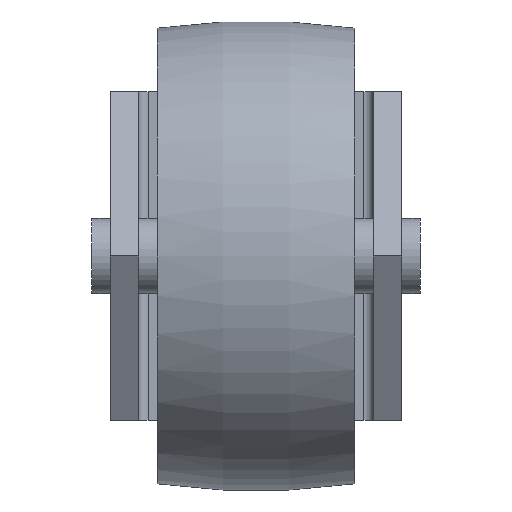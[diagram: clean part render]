
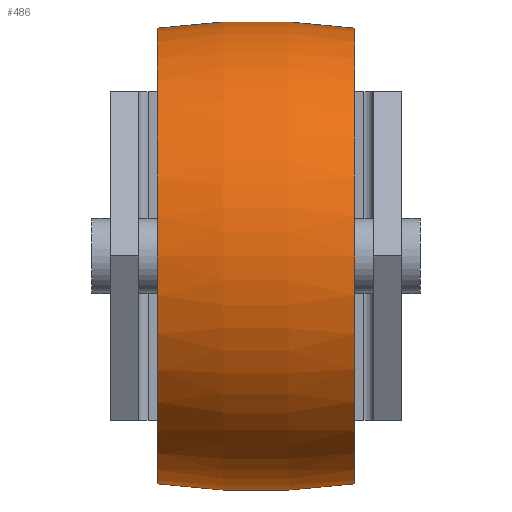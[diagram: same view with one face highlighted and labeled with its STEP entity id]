
A CAD part, front view. The second image highlights one B-rep face of the part: STEP entity #486.
In plain terms, the highlighted toroidal (fillet/blend) face has major radius 50 mm and minor radius 75 mm.
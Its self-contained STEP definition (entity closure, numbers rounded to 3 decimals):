
#19 = EDGE_LOOP ( 'NONE', ( #339, #179, #689, #720 ) ) ;
#37 = DIRECTION ( 'NONE',  ( 0., -1., 0. ) ) ;
#86 = DIRECTION ( 'NONE',  ( 0., 0., 1. ) ) ;
#130 = CARTESIAN_POINT ( 'NONE',  ( 0., -42., 50. ) ) ;
#148 = DIRECTION ( 'NONE',  ( 0., 0., -1. ) ) ;
#174 = DIRECTION ( 'NONE',  ( 1., 0., 0. ) ) ;
#179 = ORIENTED_EDGE ( 'NONE', *, *, #707, .T. ) ;
#195 = VERTEX_POINT ( 'NONE', #1203 ) ;
#273 = TOROIDAL_SURFACE ( 'NONE', #1078, -50., 75. ) ;
#275 = AXIS2_PLACEMENT_3D ( 'NONE', #130, #37, #775 ) ;
#339 = ORIENTED_EDGE ( 'NONE', *, *, #570, .F. ) ;
#359 = DIRECTION ( 'NONE',  ( 0., 0., -1. ) ) ;
#364 = CARTESIAN_POINT ( 'NONE',  ( 0., -42., -50. ) ) ;
#381 = EDGE_CURVE ( 'NONE', #1066, #682, #919, .T. ) ;
#384 = CARTESIAN_POINT ( 'NONE',  ( -10.5, -42., 0. ) ) ;
#445 = FACE_OUTER_BOUND ( 'NONE', #19, .T. ) ;
#464 = CARTESIAN_POINT ( 'NONE',  ( 0., -42., 0. ) ) ;
#486 = ADVANCED_FACE ( 'NONE', ( #445 ), #273, .T. ) ;
#531 = CARTESIAN_POINT ( 'NONE',  ( 10.5, -42., 24.261 ) ) ;
#533 = CIRCLE ( 'NONE', #275, 75. ) ;
#570 = EDGE_CURVE ( 'NONE', #195, #1066, #1121, .T. ) ;
#666 = AXIS2_PLACEMENT_3D ( 'NONE', #989, #974, #148 ) ;
#670 = CARTESIAN_POINT ( 'NONE',  ( 10.5, -42., -24.261 ) ) ;
#682 = VERTEX_POINT ( 'NONE', #670 ) ;
#689 = ORIENTED_EDGE ( 'NONE', *, *, #881, .T. ) ;
#707 = EDGE_CURVE ( 'NONE', #195, #740, #1225, .T. ) ;
#720 = ORIENTED_EDGE ( 'NONE', *, *, #381, .F. ) ;
#736 = DIRECTION ( 'NONE',  ( 0., 1., 0. ) ) ;
#740 = VERTEX_POINT ( 'NONE', #771 ) ;
#762 = DIRECTION ( 'NONE',  ( 1., 0., 0. ) ) ;
#771 = CARTESIAN_POINT ( 'NONE',  ( -10.5, -42., -24.261 ) ) ;
#775 = DIRECTION ( 'NONE',  ( 0., 0., -1. ) ) ;
#837 = DIRECTION ( 'NONE',  ( 0., 0., -1. ) ) ;
#881 = EDGE_CURVE ( 'NONE', #740, #682, #533, .T. ) ;
#919 = CIRCLE ( 'NONE', #666, 24.261 ) ;
#953 = AXIS2_PLACEMENT_3D ( 'NONE', #364, #736, #86 ) ;
#954 = AXIS2_PLACEMENT_3D ( 'NONE', #384, #762, #837 ) ;
#974 = DIRECTION ( 'NONE',  ( 1., 0., 0. ) ) ;
#989 = CARTESIAN_POINT ( 'NONE',  ( 10.5, -42., 0. ) ) ;
#1066 = VERTEX_POINT ( 'NONE', #531 ) ;
#1078 = AXIS2_PLACEMENT_3D ( 'NONE', #464, #174, #359 ) ;
#1121 = CIRCLE ( 'NONE', #953, 75. ) ;
#1203 = CARTESIAN_POINT ( 'NONE',  ( -10.5, -42., 24.261 ) ) ;
#1225 = CIRCLE ( 'NONE', #954, 24.261 ) ;
